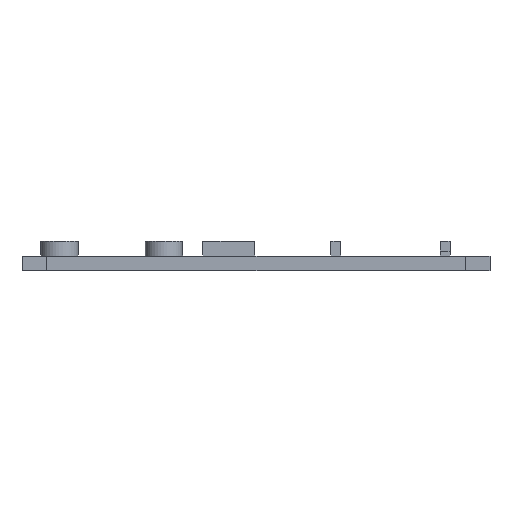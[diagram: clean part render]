
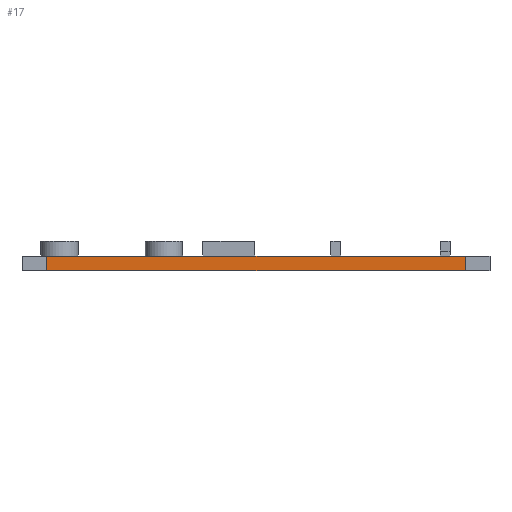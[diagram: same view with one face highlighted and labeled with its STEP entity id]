
A CAD part, left-side view. The second image highlights one B-rep face of the part: STEP entity #17.
In plain terms, the highlighted planar face has unit normal (-1, 0, 0).
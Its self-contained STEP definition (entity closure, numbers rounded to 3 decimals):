
#17 = ADVANCED_FACE('',(#18),#32,.F.);
#18 = FACE_BOUND('',#19,.F.);
#19 = EDGE_LOOP('',(#20,#55,#83,#111));
#20 = ORIENTED_EDGE('',*,*,#21,.F.);
#21 = EDGE_CURVE('',#22,#24,#26,.T.);
#22 = VERTEX_POINT('',#23);
#23 = CARTESIAN_POINT('',(7.,12.,9.));
#24 = VERTEX_POINT('',#25);
#25 = CARTESIAN_POINT('',(7.,96.,9.));
#26 = SURFACE_CURVE('',#27,(#31,#43),.PCURVE_S1.);
#27 = LINE('',#28,#29);
#28 = CARTESIAN_POINT('',(7.,7.,9.));
#29 = VECTOR('',#30,1.);
#30 = DIRECTION('',(0.,1.,0.));
#31 = PCURVE('',#32,#37);
#32 = PLANE('',#33);
#33 = AXIS2_PLACEMENT_3D('',#34,#35,#36);
#34 = CARTESIAN_POINT('',(7.,7.,6.));
#35 = DIRECTION('',(1.,0.,0.));
#36 = DIRECTION('',(0.,0.,1.));
#37 = DEFINITIONAL_REPRESENTATION('',(#38),#42);
#38 = LINE('',#39,#40);
#39 = CARTESIAN_POINT('',(3.,0.));
#40 = VECTOR('',#41,1.);
#41 = DIRECTION('',(0.,-1.));
#42 = ( GEOMETRIC_REPRESENTATION_CONTEXT(2) 
PARAMETRIC_REPRESENTATION_CONTEXT() REPRESENTATION_CONTEXT('2D SPACE',''
  ) );
#43 = PCURVE('',#44,#49);
#44 = PLANE('',#45);
#45 = AXIS2_PLACEMENT_3D('',#46,#47,#48);
#46 = CARTESIAN_POINT('',(7.,7.,9.));
#47 = DIRECTION('',(0.,0.,1.));
#48 = DIRECTION('',(1.,0.,0.));
#49 = DEFINITIONAL_REPRESENTATION('',(#50),#54);
#50 = LINE('',#51,#52);
#51 = CARTESIAN_POINT('',(0.,0.));
#52 = VECTOR('',#53,1.);
#53 = DIRECTION('',(0.,1.));
#54 = ( GEOMETRIC_REPRESENTATION_CONTEXT(2) 
PARAMETRIC_REPRESENTATION_CONTEXT() REPRESENTATION_CONTEXT('2D SPACE',''
  ) );
#55 = ORIENTED_EDGE('',*,*,#56,.F.);
#56 = EDGE_CURVE('',#57,#22,#59,.T.);
#57 = VERTEX_POINT('',#58);
#58 = CARTESIAN_POINT('',(7.,12.,6.));
#59 = SURFACE_CURVE('',#60,(#64,#71),.PCURVE_S1.);
#60 = LINE('',#61,#62);
#61 = CARTESIAN_POINT('',(7.,12.,5.));
#62 = VECTOR('',#63,1.);
#63 = DIRECTION('',(0.,0.,1.));
#64 = PCURVE('',#32,#65);
#65 = DEFINITIONAL_REPRESENTATION('',(#66),#70);
#66 = LINE('',#67,#68);
#67 = CARTESIAN_POINT('',(-1.,-5.));
#68 = VECTOR('',#69,1.);
#69 = DIRECTION('',(1.,0.));
#70 = ( GEOMETRIC_REPRESENTATION_CONTEXT(2) 
PARAMETRIC_REPRESENTATION_CONTEXT() REPRESENTATION_CONTEXT('2D SPACE',''
  ) );
#71 = PCURVE('',#72,#77);
#72 = PLANE('',#73);
#73 = AXIS2_PLACEMENT_3D('',#74,#75,#76);
#74 = CARTESIAN_POINT('',(7.,12.,5.));
#75 = DIRECTION('',(0.,1.,0.));
#76 = DIRECTION('',(0.,0.,1.));
#77 = DEFINITIONAL_REPRESENTATION('',(#78),#82);
#78 = LINE('',#79,#80);
#79 = CARTESIAN_POINT('',(0.,0.));
#80 = VECTOR('',#81,1.);
#81 = DIRECTION('',(1.,0.));
#82 = ( GEOMETRIC_REPRESENTATION_CONTEXT(2) 
PARAMETRIC_REPRESENTATION_CONTEXT() REPRESENTATION_CONTEXT('2D SPACE',''
  ) );
#83 = ORIENTED_EDGE('',*,*,#84,.T.);
#84 = EDGE_CURVE('',#57,#85,#87,.T.);
#85 = VERTEX_POINT('',#86);
#86 = CARTESIAN_POINT('',(7.,96.,6.));
#87 = SURFACE_CURVE('',#88,(#92,#99),.PCURVE_S1.);
#88 = LINE('',#89,#90);
#89 = CARTESIAN_POINT('',(7.,7.,6.));
#90 = VECTOR('',#91,1.);
#91 = DIRECTION('',(0.,1.,0.));
#92 = PCURVE('',#32,#93);
#93 = DEFINITIONAL_REPRESENTATION('',(#94),#98);
#94 = LINE('',#95,#96);
#95 = CARTESIAN_POINT('',(0.,0.));
#96 = VECTOR('',#97,1.);
#97 = DIRECTION('',(0.,-1.));
#98 = ( GEOMETRIC_REPRESENTATION_CONTEXT(2) 
PARAMETRIC_REPRESENTATION_CONTEXT() REPRESENTATION_CONTEXT('2D SPACE',''
  ) );
#99 = PCURVE('',#100,#105);
#100 = PLANE('',#101);
#101 = AXIS2_PLACEMENT_3D('',#102,#103,#104);
#102 = CARTESIAN_POINT('',(7.,7.,6.));
#103 = DIRECTION('',(0.,0.,1.));
#104 = DIRECTION('',(1.,0.,0.));
#105 = DEFINITIONAL_REPRESENTATION('',(#106),#110);
#106 = LINE('',#107,#108);
#107 = CARTESIAN_POINT('',(0.,0.));
#108 = VECTOR('',#109,1.);
#109 = DIRECTION('',(0.,1.));
#110 = ( GEOMETRIC_REPRESENTATION_CONTEXT(2) 
PARAMETRIC_REPRESENTATION_CONTEXT() REPRESENTATION_CONTEXT('2D SPACE',''
  ) );
#111 = ORIENTED_EDGE('',*,*,#112,.T.);
#112 = EDGE_CURVE('',#85,#24,#113,.T.);
#113 = SURFACE_CURVE('',#114,(#118,#125),.PCURVE_S1.);
#114 = LINE('',#115,#116);
#115 = CARTESIAN_POINT('',(7.,96.,5.));
#116 = VECTOR('',#117,1.);
#117 = DIRECTION('',(0.,0.,1.));
#118 = PCURVE('',#32,#119);
#119 = DEFINITIONAL_REPRESENTATION('',(#120),#124);
#120 = LINE('',#121,#122);
#121 = CARTESIAN_POINT('',(-1.,-89.));
#122 = VECTOR('',#123,1.);
#123 = DIRECTION('',(1.,0.));
#124 = ( GEOMETRIC_REPRESENTATION_CONTEXT(2) 
PARAMETRIC_REPRESENTATION_CONTEXT() REPRESENTATION_CONTEXT('2D SPACE',''
  ) );
#125 = PCURVE('',#126,#131);
#126 = PLANE('',#127);
#127 = AXIS2_PLACEMENT_3D('',#128,#129,#130);
#128 = CARTESIAN_POINT('',(7.,96.,5.));
#129 = DIRECTION('',(0.,1.,0.));
#130 = DIRECTION('',(0.,0.,1.));
#131 = DEFINITIONAL_REPRESENTATION('',(#132),#136);
#132 = LINE('',#133,#134);
#133 = CARTESIAN_POINT('',(0.,0.));
#134 = VECTOR('',#135,1.);
#135 = DIRECTION('',(1.,0.));
#136 = ( GEOMETRIC_REPRESENTATION_CONTEXT(2) 
PARAMETRIC_REPRESENTATION_CONTEXT() REPRESENTATION_CONTEXT('2D SPACE',''
  ) );
